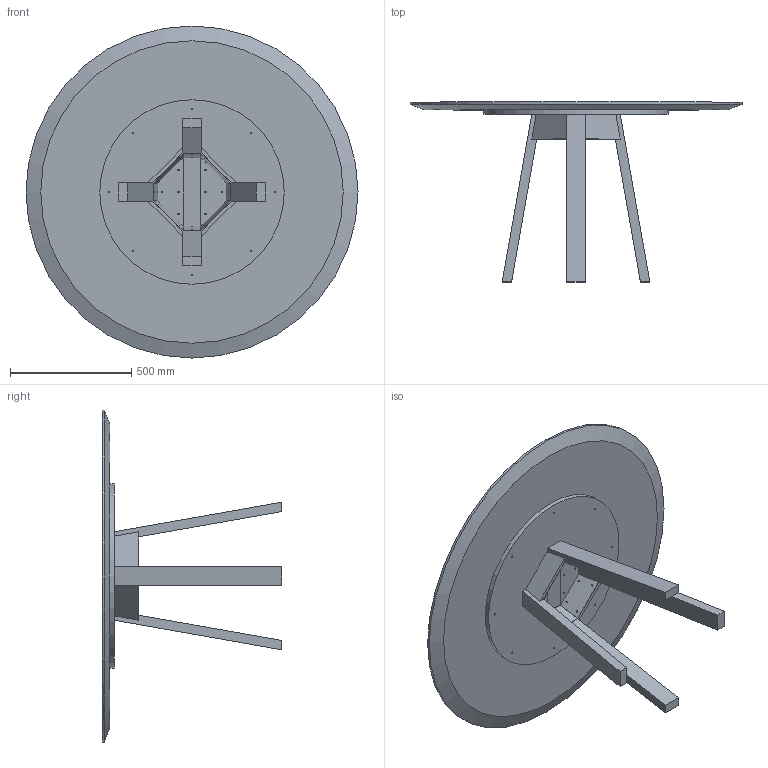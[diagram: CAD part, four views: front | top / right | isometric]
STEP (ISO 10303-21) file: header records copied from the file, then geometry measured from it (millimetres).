
FILE_DESCRIPTION(/* description */ ('','CAx-IF Rec.Pracs.---Representation and Presentation of Product Manufacturing Information (PMI)---4.0---2014-10-13'),/* implementation_level */ '2;1');
FILE_NAME(/* name */ 'TABLE_GRADIENT 1.stp',/* time_stamp */ '2024-12-07T16:26:12-05:00',/* author */ ('mbowman'),/* organization */ (''),/* preprocessor_version */ 'ST-DEVELOPER v19.2',/* originating_system */ 'Autodesk Inventor 2023',/* authorisation */ '');
FILE_SCHEMA (('AP242_MANAGED_MODEL_BASED_3D_ENGINEERING_MIM_LF { 1 0 10303 442 1 1 4 }'));
Length unit declared in the file: inch
Products named in the file (12): GRADIENT^TABLE 1_OCTAGON LEGS-60 ROUND TOP; GRADIENT^TABLE 1_OCTAGON LEGS-LEG 1; GRADIENT^TABLE 1_OCTAGON LEGS-LEG 2; GRADIENT^TABLE 1_OCTAGON LEGS-LEG 3; GRADIENT^TABLE 1_OCTAGON LEGS-LEG 4; GRADIENT^TABLE 1_OCTAGON LEGS-APRON 1; GRADIENT^TABLE 1_OCTAGON LEGS-APRON 2; GRADIENT^TABLE 1_OCTAGON LEGS-APRON 3; GRADIENT^TABLE 1_OCTAGON LEGS-APRON 4; GRADIENT^TABLE 1_OCTAGON LEGS-SUB TOP; GRADIENT^TABLE 1_OCTAGON LEGS-WORKSURFACE; GRADIENT^TABLE 1_OCTAGON LEGS-METAL BRACKET
Assembly tree (11 placements, depth 2):
  GRADIENT^TABLE 1_OCTAGON LEGS-60 ROUND TOP
    GRADIENT^TABLE 1_OCTAGON LEGS-LEG 1
    GRADIENT^TABLE 1_OCTAGON LEGS-LEG 2
    GRADIENT^TABLE 1_OCTAGON LEGS-LEG 3
    GRADIENT^TABLE 1_OCTAGON LEGS-LEG 4
    GRADIENT^TABLE 1_OCTAGON LEGS-APRON 1
    GRADIENT^TABLE 1_OCTAGON LEGS-APRON 2
    GRADIENT^TABLE 1_OCTAGON LEGS-APRON 3
    GRADIENT^TABLE 1_OCTAGON LEGS-APRON 4
    GRADIENT^TABLE 1_OCTAGON LEGS-SUB TOP
    GRADIENT^TABLE 1_OCTAGON LEGS-WORKSURFACE
    GRADIENT^TABLE 1_OCTAGON LEGS-METAL BRACKET
Bounding box: 1371.6 x 742.95 x 1371.6 mm (x, y, z)
Volume: 62323899.2 mm3; surface area: 5094348.9 mm2
Topology: 11 solids, 11 shells, 117 faces, 281 edges, 186 vertices
Faces by surface type: plane 74, cylinder 42, cone 1
Full cylindrical faces by diameter (mm): 5.556 x40, 762 x1, 1371.6 x1
Entity records: 5337 total; most frequent: DIRECTION 933, CARTESIAN_POINT 877, ORIENTED_EDGE 562, AXIS2_PLACEMENT_3D 369, EDGE_CURVE 281, EDGE_LOOP 199, LINE 195, VECTOR 195
